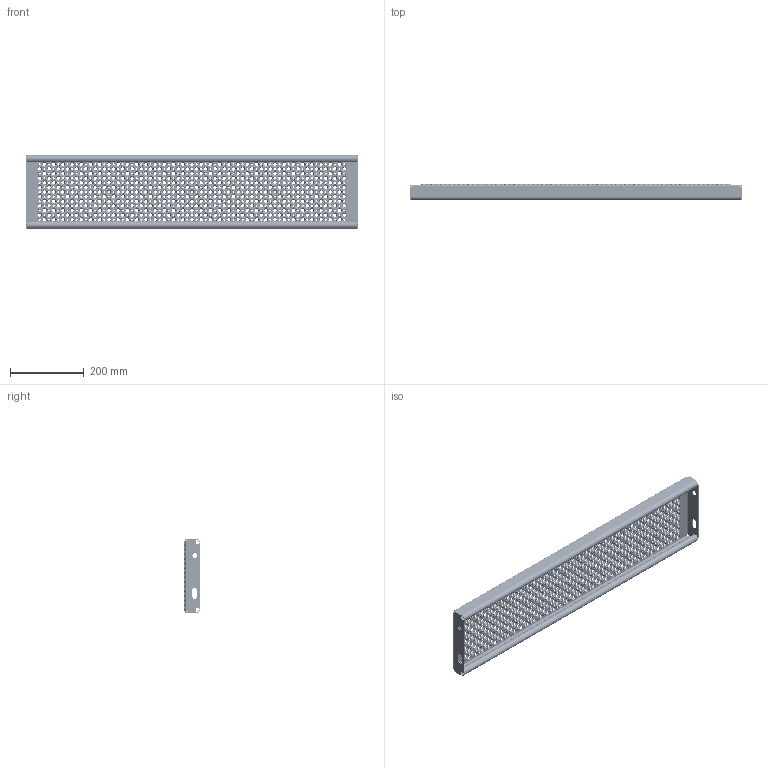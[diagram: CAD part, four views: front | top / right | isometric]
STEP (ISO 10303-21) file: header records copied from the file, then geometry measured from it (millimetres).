
FILE_DESCRIPTION (( 'STEP AP214' ), '1' );
FILE_NAME ('OPTIMO-Tread-Achil-O2-900x200x45x2-st240-F100110100.STEP', '2021-03-15T09:43:35', ( '' ), ( '' ), 'SwSTEP 2.0', 'SolidWorks 2021', '' );
FILE_SCHEMA (( 'AUTOMOTIVE_DESIGN' ));
Products named in the file (1): OPTIMO-Tread-Achil-O2-900x200x45x2-st240-F100110100
Bounding box: 900 x 45 x 200 mm (x, y, z)
Volume: 669703.1 mm3; surface area: 724356 mm2
Topology: 1 solids, 1 shells, 10132 faces, 26330 edges, 16200 vertices
Faces by surface type: cone 6030, torus 4020, plane 38, cylinder 36, bspline 8
Entity records: 322504 total; most frequent: DIRECTION 66704, CARTESIAN_POINT 53255, ORIENTED_EDGE 52660, AXIS2_PLACEMENT_3D 30281, EDGE_CURVE 26330, CIRCLE 20156, VERTEX_POINT 16200, EDGE_LOOP 12150
